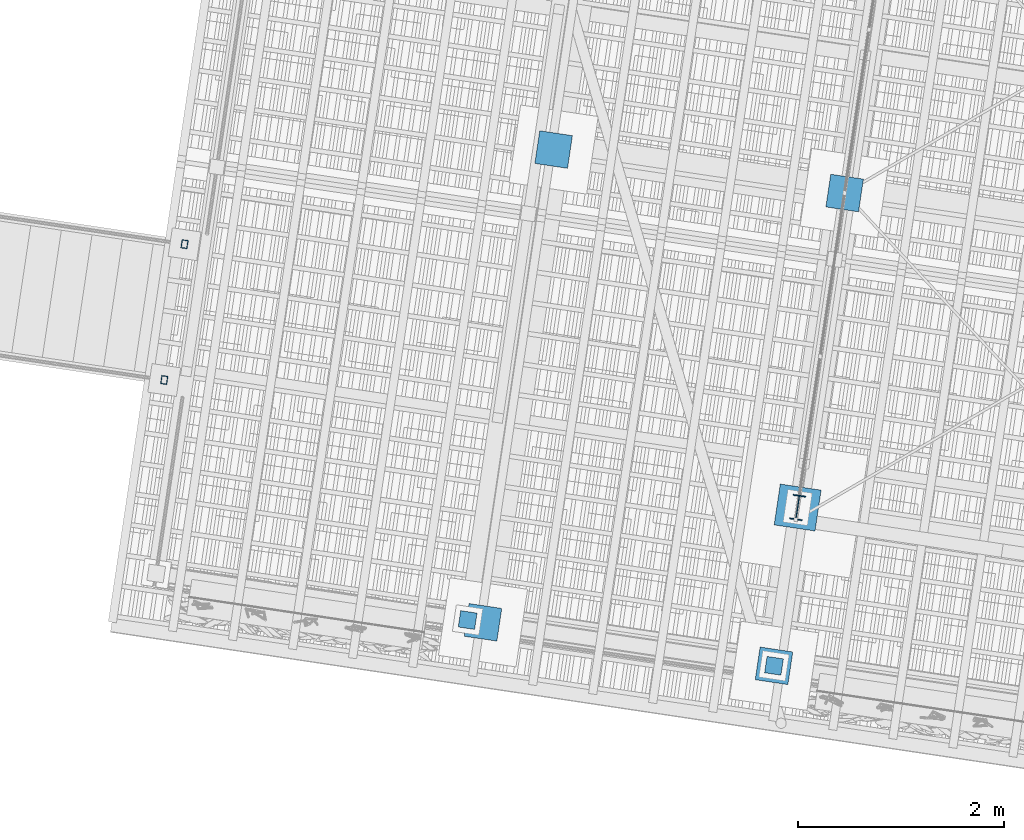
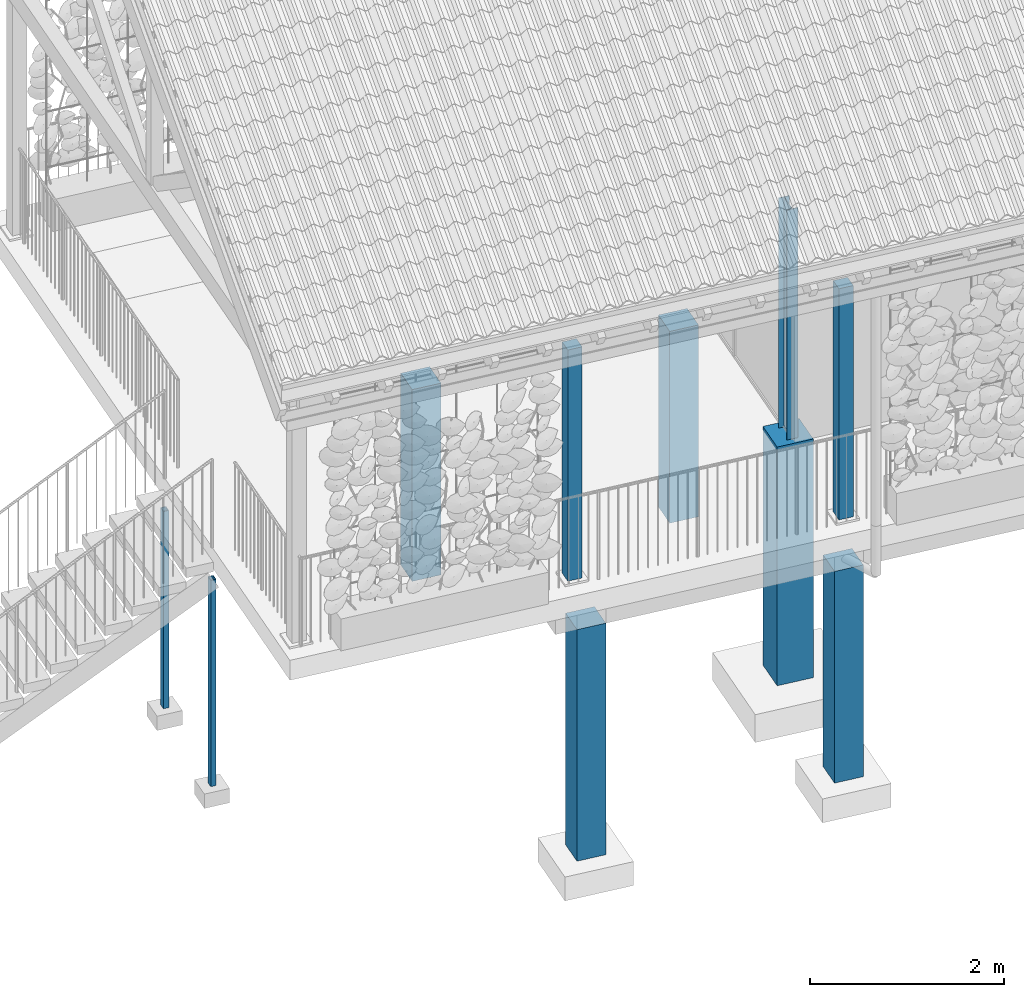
# One storey, part 2 of 131: 10 columns, 3 elements without a shape of their own.
"""IFC4 building model written with IfcOpenShell, lengths in metres."""

from ifc_helpers import new_model, si_unit, direction, frame, origin_with_axes, place, context, subcontext, project, spatial, polyline, rectangle, hollow_rectangle, i_section, outline, extrude, material, material_profile, profile_set, profile_usage, type_object, element, aggregate, save


model = new_model("IFC4")

# Units and contexts
model_context = context("Model", 3, precision=1e-05, world=origin_with_axes(), true_north=direction((0.0, 1.0)))
body_context = subcontext(model_context, "Body", "Model", "MODEL_VIEW")
ifc_project = project(units=[si_unit("VOLUMEUNIT", "CUBIC_METRE"), si_unit("LENGTHUNIT", "METRE"), si_unit("AREAUNIT", "SQUARE_METRE")], contexts=[model_context])

# Site, building, storey
site_placement = place(None, origin_with_axes())
site = spatial("IfcSite", under=ifc_project, at=site_placement, Name="Lares · Rua das Mercês · artigo 4771")
building_placement = place(site_placement, frame((15.0, 9.7, 15.8), z_axis=(0.0, 0.0, 1.0), x_axis=(0.989015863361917, -0.147809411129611, 0.0)))
building = spatial("IfcBuilding", under=site, at=building_placement, Name="Casa Sobreposta")
storey_placement = place(building_placement, origin_with_axes())
storey = spatial("IfcBuildingStorey", under=building, at=storey_placement, Name="00 · Habitação e estacionamento", Elevation=15.8)

# Column
ifc_material_1 = material(Name="Aço pintado / Stahl lackiert", Category="steel")
ifc_material_profile_1 = material_profile(ifc_material_1, i_section(OverallWidth=0.12, OverallDepth=0.24, WebThickness=0.0062, FlangeThickness=0.0098))
ifc_profile_set_1 = profile_set([ifc_material_profile_1], Name="IPE240")
ifc_profile_usage_1 = profile_usage(ifc_profile_set_1)
column_type_1 = type_object("IfcColumnType", Name="IPE240 / steel", PredefinedType="NOTDEFINED", material=ifc_profile_set_1)
column_1_placement = place(storey_placement, frame((0.0, 0.12, 0.0), z_axis=(0.0, 0.0, 1.0), x_axis=(1.0, 0.0, 0.0)))
element("IfcColumn", 1, at=column_1_placement, inside=storey, type_object=column_type_1, material=ifc_profile_usage_1, Name="Casa térrea · pilar metálico de referência", context=body_context, shape_type="SweptSolid", body=[
    extrude(i_section(OverallWidth=0.12, OverallDepth=0.24, WebThickness=0.0062, FlangeThickness=0.0098), origin_with_axes(), (0.0, 0.0, 1.0), 2.89),
])

# Stair, columns
stair_placement = place(storey_placement, origin_with_axes())
stair = element("IfcStair", 2, at=stair_placement, inside=storey, Name="Jardim · escada pela fachada poente", PredefinedType="STRAIGHT_RUN_STAIR")
ifc_material_profile_2 = material_profile(ifc_material_1, hollow_rectangle(XDim=0.06, YDim=0.08, WallThickness=0.004))
ifc_profile_set_2 = profile_set([ifc_material_profile_2], Name="RHS80x60x4")
ifc_profile_usage_2 = profile_usage(ifc_profile_set_2)
column_type_2 = type_object("IfcColumnType", Name="RHS80x60x4 / steel", PredefinedType="NOTDEFINED", material=ifc_profile_set_2)
column_2_placement = place(stair_placement, frame((-6.25, 0.435, -3.01767746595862), z_axis=(0.0, 0.0, 1.0), x_axis=(1.0, 0.0, 0.0)))
column_2 = element("IfcColumn", 3, at=column_2_placement, type_object=column_type_2, material=ifc_profile_usage_2, Name="Jardim · montante", context=body_context, shape_type="SweptSolid", body=[
    extrude(hollow_rectangle(XDim=0.06, YDim=0.08, WallThickness=0.004), origin_with_axes(), (0.0, 0.0, 1.0), 2.59136167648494),
])
ifc_profile_usage_3 = profile_usage(ifc_profile_set_2)
column_3_placement = place(stair_placement, frame((-6.25, 1.765, -2.90553574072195), z_axis=(0.0, 0.0, 1.0), x_axis=(1.0, 0.0, 0.0)))
column_3 = element("IfcColumn", 4, at=column_3_placement, type_object=column_type_2, material=ifc_profile_usage_3, Name="Jardim · montante", context=body_context, shape_type="SweptSolid", body=[
    extrude(hollow_rectangle(XDim=0.06, YDim=0.08, WallThickness=0.004), origin_with_axes(), (0.0, 0.0, 1.0), 2.47921995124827),
])
aggregate(stair, [column_2, column_3])

# Assembly, columns
assembly_1_placement = place(storey_placement, origin_with_axes())
assembly_1 = element("IfcElementAssembly", 5, at=assembly_1_placement, inside=storey, Name="Varanda coberta · continuação integral da cobertura", ObjectType="COVERED_PODIUM_BALCONY", PredefinedType="USERDEFINED")
ifc_material_2 = material(Name="Madeira / Bauholz", Category="wood")
ifc_material_profile_3 = material_profile(ifc_material_2, rectangle(XDim=0.16, YDim=0.16))
ifc_profile_set_3 = profile_set([ifc_material_profile_3], Name="TIMBER0.160x0.160")
ifc_profile_usage_4 = profile_usage(ifc_profile_set_3)
column_type_3 = type_object("IfcColumnType", Name="TIMBER0.160x0.160 / timber", PredefinedType="NOTDEFINED", material=ifc_profile_set_3)
column_4_placement = place(assembly_1_placement, frame((-3.0, -1.43, -0.015), z_axis=(0.0, 0.0, 1.0), x_axis=(1.0, 0.0, 0.0)))
column_4 = element("IfcColumn", 6, at=column_4_placement, type_object=column_type_3, material=ifc_profile_usage_4, Name="Varanda coberta · pilar", context=body_context, shape_type="SweptSolid", body=[
    extrude(rectangle(XDim=0.16, YDim=0.16), origin_with_axes(), (0.0, 0.0, 1.0), 2.905),
])
ifc_profile_usage_5 = profile_usage(ifc_profile_set_3)
column_5_placement = place(assembly_1_placement, frame((0.0, -1.43, -0.015), z_axis=(0.0, 0.0, 1.0), x_axis=(1.0, 0.0, 0.0)))
column_5 = element("IfcColumn", 7, at=column_5_placement, type_object=column_type_3, material=ifc_profile_usage_5, Name="Varanda coberta · pilar", context=body_context, shape_type="SweptSolid", body=[
    extrude(rectangle(XDim=0.16, YDim=0.16), origin_with_axes(), (0.0, 0.0, 1.0), 2.905),
])
aggregate(assembly_1, [column_4, column_5])

# Column
ifc_material_3 = material(Name="Betão armado / Stahlbeton", Category="concrete")
column_6_placement = place(storey_placement, frame((0.0, 0.0, -3.0), z_axis=(0.0, 0.0, 1.0), x_axis=(1.0, 0.0, 0.0)))
element("IfcColumn", 8, at=column_6_placement, inside=storey, material=ifc_material_3, Name="Casa térrea · pedestal", context=body_context, shape_type="SweptSolid", body=[
    extrude(outline(polyline([(0.2, -0.08), (0.2, 0.32), (-0.2, 0.32), (-0.2, -0.08), (0.2, -0.08)])), origin_with_axes(), (0.0, 0.0, 1.0), 3.0),
])

# Assembly, columns
assembly_2_placement = place(storey_placement, origin_with_axes())
assembly_2 = element("IfcElementAssembly", 9, at=assembly_2_placement, inside=storey, Name="Pódio · terraço, casa térrea e cisterna", ObjectType="CISTERN_PODIUM", PredefinedType="USERDEFINED")
column_7_placement = place(assembly_2_placement, frame((0.0, 0.0, -3.5), z_axis=(0.0, 0.0, 1.0), x_axis=(1.0, 0.0, 0.0)))
column_7 = element("IfcColumn", 10, at=column_7_placement, material=ifc_material_3, Name="Pódio suspenso · apoio sobre o terreno", context=body_context, shape_type="SweptSolid", body=[
    extrude(outline(polyline([(-2.69, -1.59), (-2.69, -1.27), (-3.01, -1.27), (-3.01, -1.59), (-2.69, -1.59)])), origin_with_axes(), (0.0, 0.0, 1.0), 2.91),
])
column_8_placement = place(assembly_2_placement, frame((0.0, 0.0, -3.0), z_axis=(0.0, 0.0, 1.0), x_axis=(1.0, 0.0, 0.0)))
column_8 = element("IfcColumn", 11, at=column_8_placement, material=ifc_material_3, Name="Pódio suspenso · apoio sobre o terreno", context=body_context, shape_type="SweptSolid", body=[
    extrude(outline(polyline([(-2.69, 3.04), (-2.69, 3.36), (-3.01, 3.36), (-3.01, 3.04), (-2.69, 3.04)])), origin_with_axes(), (0.0, 0.0, 1.0), 2.41),
])
column_9_placement = place(assembly_2_placement, frame((0.0, 0.0, -3.25), z_axis=(0.0, 0.0, 1.0), x_axis=(1.0, 0.0, 0.0)))
column_9 = element("IfcColumn", 12, at=column_9_placement, material=ifc_material_3, Name="Pódio suspenso · apoio sobre o terreno", context=body_context, shape_type="SweptSolid", body=[
    extrude(outline(polyline([(0.16, -1.59), (0.16, -1.27), (-0.16, -1.27), (-0.16, -1.59), (0.16, -1.59)])), origin_with_axes(), (0.0, 0.0, 1.0), 2.66),
])
column_10_placement = place(assembly_2_placement, frame((0.0, 0.0, -3.0), z_axis=(0.0, 0.0, 1.0), x_axis=(1.0, 0.0, 0.0)))
column_10 = element("IfcColumn", 13, at=column_10_placement, material=ifc_material_3, Name="Pódio suspenso · apoio sobre o terreno", context=body_context, shape_type="SweptSolid", body=[
    extrude(outline(polyline([(0.16, 3.04), (0.16, 3.36), (-0.16, 3.36), (-0.16, 3.04), (0.16, 3.04)])), origin_with_axes(), (0.0, 0.0, 1.0), 2.41),
])
aggregate(assembly_2, [column_7, column_8, column_9, column_10])

save(model, "model.ifc")
